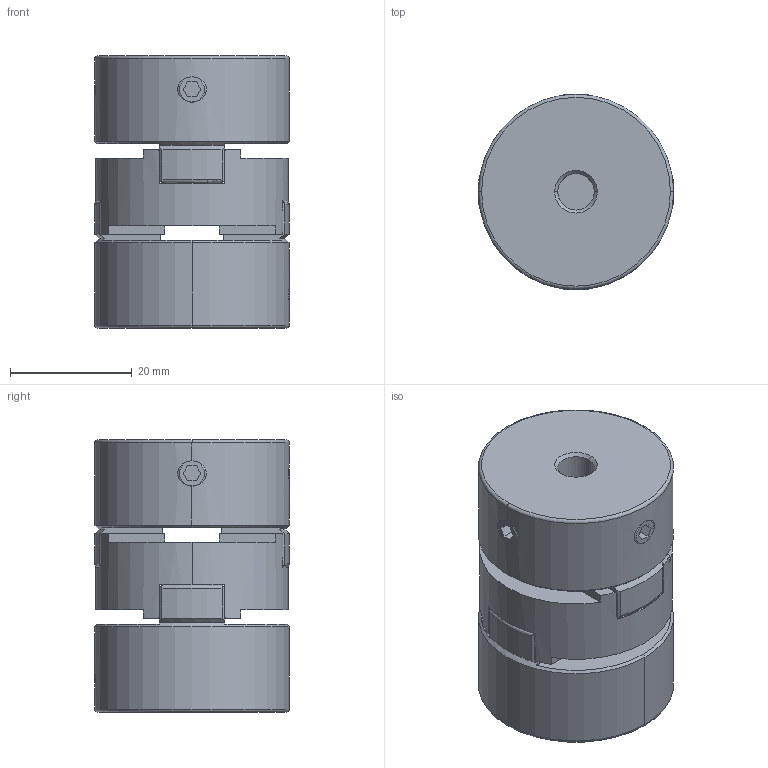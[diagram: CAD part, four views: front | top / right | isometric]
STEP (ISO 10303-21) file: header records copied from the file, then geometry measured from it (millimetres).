
FILE_DESCRIPTION (( 'STEP AP203' ), '1' );
FILE_NAME ('SOH-32SS-6X15_203.STEP', '2013-01-24T07:27:24', ( '' ), ( '' ), 'SwSTEP 2.0', 'SolidWorks 2012', '' );
FILE_SCHEMA (( 'CONFIG_CONTROL_DESIGN' ));
Length unit declared in the file: millimetre
Products named in the file (1): SOH-32SS-6X15_203
Bounding box: 32 x 32 x 44.7 mm (x, y, z)
Volume: 27745.1 mm3; surface area: 10282.3 mm2
Topology: 1 solids, 1 shells, 182 faces, 530 edges, 341 vertices
Faces by surface type: plane 93, cylinder 49, cone 20, torus 12, sphere 8
Entity records: 6662 total; most frequent: CARTESIAN_POINT 1804, ORIENTED_EDGE 1060, DIRECTION 949, EDGE_CURVE 530, VERTEX_POINT 341, AXIS2_PLACEMENT_3D 336, VECTOR 277, LINE 277
